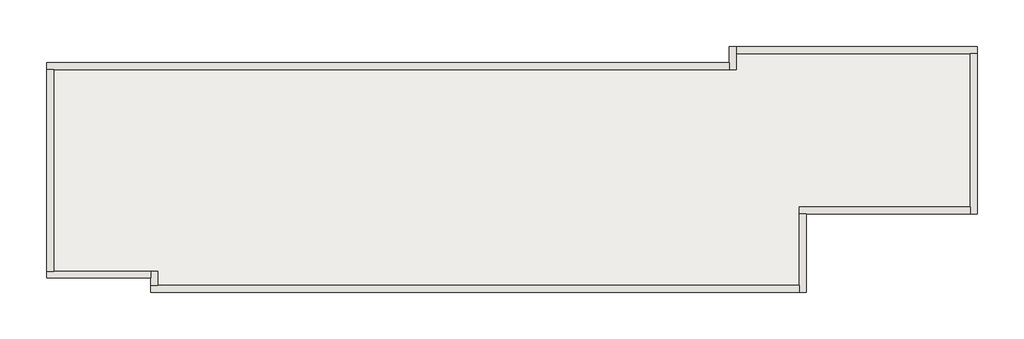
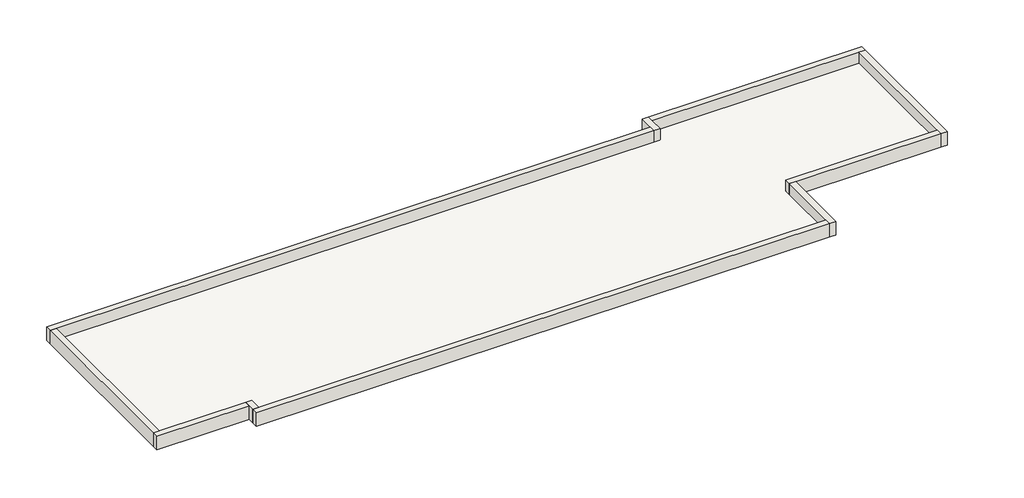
# One storey: 10 walls, 1 roof.
"""IFC4 building model written with IfcOpenShell, lengths in millimetres."""

from ifc_helpers import new_model, si_unit, frame, origin, place, context, project, spatial, polyline, outline, extrude, faceted_brep, element, save

model = new_model("IFC4")

# Units and contexts
model_context = context("Model", 3, world=origin())
ifc_project = project(units=[si_unit("LENGTHUNIT", "METRE", prefix="MILLI")], contexts=[model_context])

# Site, building, storey
site = spatial("IfcSite", under=ifc_project)
building = spatial("IfcBuilding", under=site)
storey = spatial("IfcBuildingStorey", under=building, Name="标高 4", Elevation=10800.0)

# Roof
placement = place(None, origin())
element("IfcRoof", 1, ObjectType="常规 - 100mm", at=placement, inside=storey, context=model_context, shape_type="SweptSolid", body=[
    extrude(outline(polyline([(-8350.3834175, 1519.0398513), (17149.6165825, 1519.0398513), (17149.6165825, 2119.0398513), (25889.6165825, 2119.0398513), (25889.6165825, -3620.9601487), (19489.6165825, -3620.9601487), (19489.6165825, -6550.9601487), (-4450.3834175, -6550.9601487), (-4450.3834175, -6020.9601487), (-8350.3834175, -6020.9601487), (-8350.3834175, 1519.0398513)])), frame((0.0, 0.0, 10800.0), z_axis=(0.0, 0.0, 1.0), x_axis=(1.0, 0.0, 0.0)), (0.0, 0.0, 1.0), 100.0),
])

# Walls
element("IfcWall", 2, ObjectType="外墙", at=placement, inside=storey, context=model_context, shape_type="Brep", body=[
    faceted_brep([(-8610.3834175, 1519.0398513, 10800.0), (-8350.3834175, 1519.0398513, 10800.0), (16889.6165825, 1519.0398513, 10800.0), (16889.6165825, 1519.0398513, 11400.0), (-8350.3834175, 1519.0398513, 11400.0), (-8610.3834175, 1519.0398513, 11400.0), (-8610.3834175, 1779.0398513, 10800.0), (-8610.3834175, 1779.0398513, 11400.0), (16889.6165825, 1779.0398513, 11400.0), (16889.6165825, 1779.0398513, 10800.0)], [[[0, 1, 2, 3, 4, 5]], [[6, 7, 8, 9]], [[2, 1, 0, 6, 9]], [[5, 4, 3, 8, 7]], [[3, 2, 9, 8]], [[0, 5, 7, 6]]]),
])
element("IfcWall", 3, ObjectType="外墙", at=placement, inside=storey, context=model_context, shape_type="Brep", body=[
    faceted_brep([(17149.6165825, 1519.0398513, 10800.0), (17149.6165825, 2119.0398513, 10800.0), (17149.6165825, 2379.0398513, 10800.0), (17149.6165825, 2379.0398513, 11400.0), (17149.6165825, 2119.0398513, 11400.0), (17149.6165825, 1519.0398513, 11400.0), (16889.6165825, 1519.0398513, 10800.0), (16889.6165825, 1519.0398513, 11400.0), (16889.6165825, 1779.0398513, 11400.0), (16889.6165825, 2379.0398513, 11400.0), (16889.6165825, 2379.0398513, 10800.0), (16889.6165825, 1779.0398513, 10800.0)], [[[0, 1, 2, 3, 4, 5]], [[6, 7, 8, 9, 10, 11]], [[2, 1, 0, 6, 11, 10]], [[5, 4, 3, 9, 8, 7]], [[0, 5, 7, 6]], [[3, 2, 10, 9]]]),
])
element("IfcWall", 4, ObjectType="外墙", at=placement, inside=storey, context=model_context, shape_type="Brep", body=[
    faceted_brep([(17149.6165825, 2119.0398513, 10800.0), (25889.6165825, 2119.0398513, 10800.0), (26149.6165825, 2119.0398513, 10800.0), (26149.6165825, 2119.0398513, 11400.0), (25889.6165825, 2119.0398513, 11400.0), (17149.6165825, 2119.0398513, 11400.0), (17149.6165825, 2379.0398513, 10800.0), (17149.6165825, 2379.0398513, 11400.0), (26149.6165825, 2379.0398513, 11400.0), (26149.6165825, 2379.0398513, 10800.0)], [[[0, 1, 2, 3, 4, 5]], [[6, 7, 8, 9]], [[2, 1, 0, 6, 9]], [[5, 4, 3, 8, 7]], [[0, 5, 7, 6]], [[3, 2, 9, 8]]]),
])
element("IfcWall", 5, ObjectType="外墙", at=placement, inside=storey, context=model_context, shape_type="Brep", body=[
    faceted_brep([(25889.6165825, 2119.0398513, 10800.0), (25889.6165825, -3620.9601487, 10800.0), (25889.6165825, -3880.9601487, 10800.0), (25889.6165825, -3880.9601487, 11400.0), (25889.6165825, -3620.9601487, 11400.0), (25889.6165825, 2119.0398513, 11400.0), (26149.6165825, 2119.0398513, 10800.0), (26149.6165825, 2119.0398513, 11400.0), (26149.6165825, -3880.9601487, 11400.0), (26149.6165825, -3880.9601487, 10800.0)], [[[0, 1, 2, 3, 4, 5]], [[6, 7, 8, 9]], [[2, 1, 0, 6, 9]], [[5, 4, 3, 8, 7]], [[0, 5, 7, 6]], [[3, 2, 9, 8]]]),
])
element("IfcWall", 6, ObjectType="外墙", at=placement, inside=storey, context=model_context, shape_type="Brep", body=[
    faceted_brep([(25889.6165825, -3620.9601487, 10800.0), (19489.6165825, -3620.9601487, 10800.0), (19489.6165825, -3620.9601487, 11400.0), (25889.6165825, -3620.9601487, 11400.0), (25889.6165825, -3880.9601487, 10800.0), (25889.6165825, -3880.9601487, 11400.0), (19749.6165825, -3880.9601487, 11400.0), (19489.6165825, -3880.9601487, 11400.0), (19489.6165825, -3880.9601487, 10800.0), (19749.6165825, -3880.9601487, 10800.0)], [[[0, 1, 2, 3]], [[4, 5, 6, 7, 8, 9]], [[1, 0, 4, 9, 8]], [[3, 2, 7, 6, 5]], [[0, 3, 5, 4]], [[2, 1, 8, 7]]]),
])
element("IfcWall", 7, ObjectType="外墙", at=placement, inside=storey, context=model_context, shape_type="Brep", body=[
    faceted_brep([(19489.6165825, -3880.9601487, 10800.0), (19489.6165825, -6550.9601487, 10800.0), (19489.6165825, -6810.9601487, 10800.0), (19489.6165825, -6810.9601487, 11400.0), (19489.6165825, -6550.9601487, 11400.0), (19489.6165825, -3880.9601487, 11400.0), (19749.6165825, -3880.9601487, 10800.0), (19749.6165825, -3880.9601487, 11400.0), (19749.6165825, -6810.9601487, 11400.0), (19749.6165825, -6810.9601487, 10800.0)], [[[0, 1, 2, 3, 4, 5]], [[6, 7, 8, 9]], [[2, 1, 0, 6, 9]], [[5, 4, 3, 8, 7]], [[0, 5, 7, 6]], [[3, 2, 9, 8]]]),
])
element("IfcWall", 8, ObjectType="外墙", at=placement, inside=storey, context=model_context, shape_type="Brep", body=[
    faceted_brep([(19489.6165825, -6550.9601487, 10800.0), (-4450.3834175, -6550.9601487, 10800.0), (-4710.3834175, -6550.9601487, 10800.0), (-4710.3834175, -6550.9601487, 11400.0), (-4450.3834175, -6550.9601487, 11400.0), (19489.6165825, -6550.9601487, 11400.0), (19489.6165825, -6810.9601487, 10800.0), (19489.6165825, -6810.9601487, 11400.0), (-4710.3834175, -6810.9601487, 11400.0), (-4710.3834175, -6810.9601487, 10800.0)], [[[0, 1, 2, 3, 4, 5]], [[6, 7, 8, 9]], [[2, 1, 0, 6, 9]], [[5, 4, 3, 8, 7]], [[0, 5, 7, 6]], [[3, 2, 9, 8]]]),
])
element("IfcWall", 9, ObjectType="外墙", at=placement, inside=storey, context=model_context, shape_type="Brep", body=[
    faceted_brep([(-4450.3834175, -6550.9601487, 10800.0), (-4450.3834175, -6020.9601487, 10800.0), (-4450.3834175, -6020.9601487, 11400.0), (-4450.3834175, -6550.9601487, 11400.0), (-4710.3834175, -6550.9601487, 10800.0), (-4710.3834175, -6550.9601487, 11400.0), (-4710.3834175, -6280.9601487, 11400.0), (-4710.3834175, -6020.9601487, 11400.0), (-4710.3834175, -6020.9601487, 10800.0), (-4710.3834175, -6280.9601487, 10800.0)], [[[0, 1, 2, 3]], [[4, 5, 6, 7, 8, 9]], [[1, 0, 4, 9, 8]], [[3, 2, 7, 6, 5]], [[0, 3, 5, 4]], [[2, 1, 8, 7]]]),
])
element("IfcWall", 10, ObjectType="外墙", at=placement, inside=storey, context=model_context, shape_type="Brep", body=[
    faceted_brep([(-4710.3834175, -6020.9601487, 10800.0), (-8350.3834175, -6020.9601487, 10800.0), (-8610.3834175, -6020.9601487, 10800.0), (-8610.3834175, -6020.9601487, 11400.0), (-8350.3834175, -6020.9601487, 11400.0), (-4710.3834175, -6020.9601487, 11400.0), (-4710.3834175, -6280.9601487, 10800.0), (-4710.3834175, -6280.9601487, 11400.0), (-8610.3834175, -6280.9601487, 11400.0), (-8610.3834175, -6280.9601487, 10800.0)], [[[0, 1, 2, 3, 4, 5]], [[6, 7, 8, 9]], [[2, 1, 0, 6, 9]], [[5, 4, 3, 8, 7]], [[0, 5, 7, 6]], [[3, 2, 9, 8]]]),
])
element("IfcWall", 11, ObjectType="外墙", at=placement, inside=storey, context=model_context, shape_type="SweptSolid", body=[
    extrude(outline(polyline([(-8350.3834175, 1519.0398513), (-8350.3834175, -6020.9601487), (-8610.3834175, -6020.9601487), (-8610.3834175, 1519.0398513), (-8350.3834175, 1519.0398513)])), frame((0.0, 0.0, 10800.0), z_axis=(0.0, 0.0, 1.0), x_axis=(1.0, 0.0, 0.0)), (0.0, 0.0, 1.0), 600.0),
])

save(model, "model.ifc")
